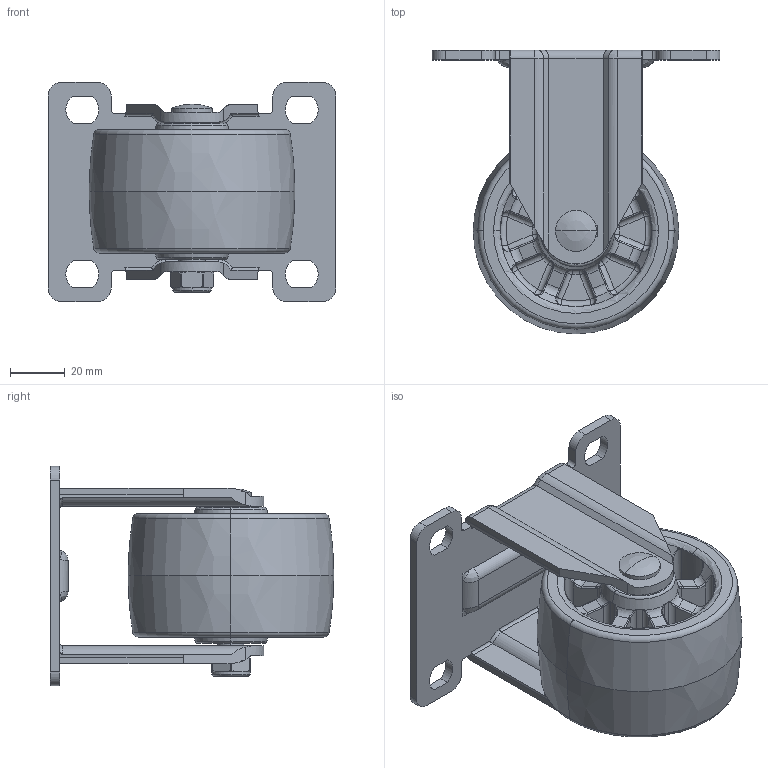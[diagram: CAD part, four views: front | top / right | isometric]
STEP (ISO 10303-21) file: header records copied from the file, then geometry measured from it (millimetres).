
FILE_DESCRIPTION((''),'2;1');
FILE_NAME('6203-03_ASM','2023-01-09T',('lenovo'),(''),'PRO/ENGINEER BY PARAMETRIC TECHNOLOGY CORPORATION, 2010280','PRO/ENGINEER BY PARAMETRIC TECHNOLOGY CORPORATION, 2010280','');
FILE_SCHEMA(('CONFIG_CONTROL_DESIGN'));
Length unit declared in the file: millimetre
Products named in the file (5): 623-10; 620-33; 570-34; 623-903; 6203-03_ASM
Assembly tree (4 placements, depth 2):
  6203-03_ASM
    623-10
    620-33
    570-34
    623-903
Bounding box: 105 x 103.41 x 80 mm (x, y, z)
Volume: 196546.3 mm3; surface area: 62605.1 mm2
Topology: 4 solids, 4 shells, 850 faces, 2123 edges, 1219 vertices
Faces by surface type: cylinder 260, bspline 229, plane 123, torus 118, sphere 66, cone 54
Entity records: 36549 total; most frequent: CARTESIAN_POINT 18632, ORIENTED_EDGE 4110, DIRECTION 3253, EDGE_CURVE 2055, AXIS2_PLACEMENT_3D 1373, VERTEX_POINT 1219, EDGE_LOOP 872, FACE_OUTER_BOUND 850
